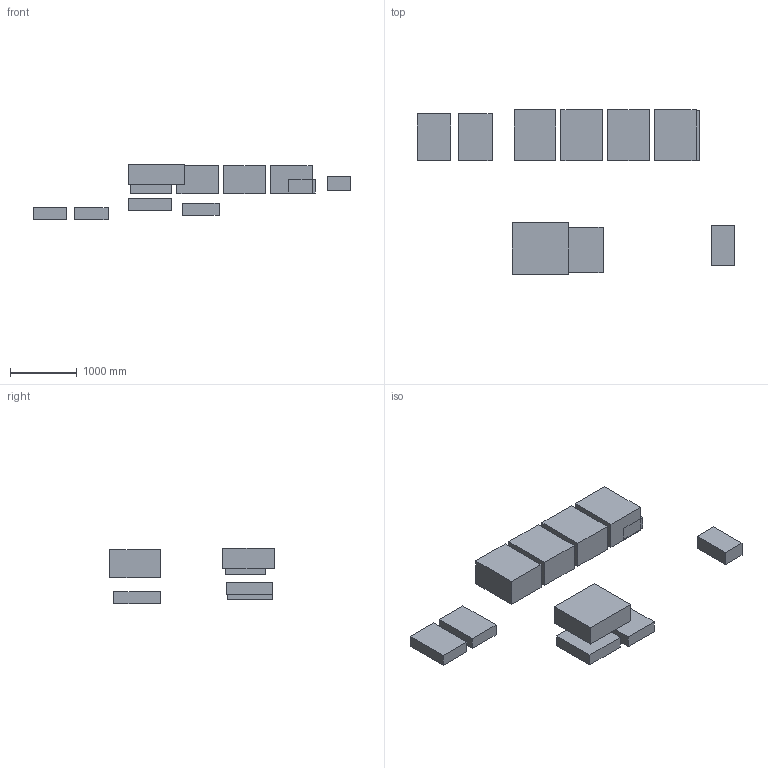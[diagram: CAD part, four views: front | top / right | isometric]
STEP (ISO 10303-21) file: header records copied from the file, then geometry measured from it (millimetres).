
FILE_DESCRIPTION(('FreeCAD Model'),'2;1');
FILE_NAME('Open CASCADE Shape Model','2026-10-28T17:35:04',('Author'),( ''),'Open CASCADE STEP processor 7.8','FreeCAD','Unknown');
FILE_SCHEMA(('AUTOMOTIVE_DESIGN { 1 0 10303 214 1 1 1 1 }'));
Length unit declared in the file: millimetre
Products named in the file (12): Haven1_Public_Reference_R1; Power distribution / conversion tray; Battery module envelope 1; Battery module envelope 2; Battery module envelope 3; Battery module envelope 4; Solar MPPT / charge regulator A; Solar MPPT / charge regulator B; Battery management electronics; Heater controller / switching electronics; Thermal control electronics; Ventilation fan drive electronics
Assembly tree (11 placements, depth 2):
  Haven1_Public_Reference_R1
    Power distribution / conversion tray
    Battery module envelope 1
    Battery module envelope 2
    Battery module envelope 3
    Battery module envelope 4
    Solar MPPT / charge regulator A
    Solar MPPT / charge regulator B
    Battery management electronics
    Heater controller / switching electronics
    Thermal control electronics
    Ventilation fan drive electronics
Bounding box: 4750 x 2460 x 830 mm (x, y, z)
Volume: 1369386000 mm3; surface area: 17436200 mm2
Topology: 11 solids, 11 shells, 66 faces, 132 edges, 88 vertices
Faces by surface type: plane 66
Entity records: 1864 total; most frequent: CARTESIAN_POINT 298, DIRECTION 288, ORIENTED_EDGE 264, EDGE_CURVE 132, LINE 132, VECTOR 132, VERTEX_POINT 88, AXIS2_PLACEMENT_3D 78
